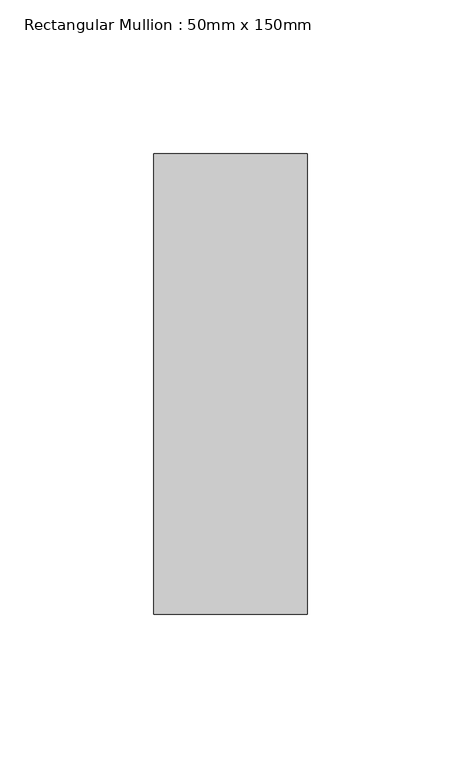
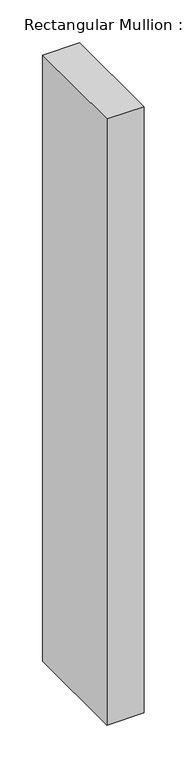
"""IFC4 building model written with IfcOpenShell, lengths in millimetres: member geometry, Rectangular Mullion : 50mm x 150mm."""

from ifc_helpers import new_model, si_unit, frame, origin, place, context, project, spatial, polyline, outline, extrude, source, transform, mapped, element, save


def rectangular_mullion_50mm_x_150mm_228869d4(model_context):
    return source(origin(), model_context, "Body", "SweptSolid", [
        extrude(outline(polyline([(25.0, 75.0), (25.0, -75.0), (-25.0, -75.0), (-25.0, 75.0), (25.0, 75.0)])), frame((0.0, 0.0, -863.7581578), z_axis=(0.0, 0.0, 1.0), x_axis=(1.0, 0.0, 0.0)), (0.0, 0.0, 1.0), 863.7581578),
    ])


if __name__ == "__main__":
    model = new_model("IFC4")
    model_context = context("Model", 3, world=origin())
    ifc_project = project(units=[si_unit("LENGTHUNIT", "METRE", prefix="MILLI")], contexts=[model_context])
    site = spatial("IfcSite", under=ifc_project)
    building = spatial("IfcBuilding", under=site)
    placement = place(None, origin())
    rectangular_mullion_50mm_x_150mm_shape = rectangular_mullion_50mm_x_150mm_228869d4(model_context)
    element("IfcMember", 1, ObjectType="Rectangular Mullion : 50mm x 150mm", at=placement, inside=building, context=model_context, shape_type="MappedRepresentation", body=[
        mapped(rectangular_mullion_50mm_x_150mm_shape, transform((0.0, 0.0, 0.0), x_axis=(1.0, 0.0, 0.0), y_axis=(0.0, 1.0, 0.0), z_axis=(0.0, 0.0, 1.0))),
    ])
    save(model, "model.ifc")
